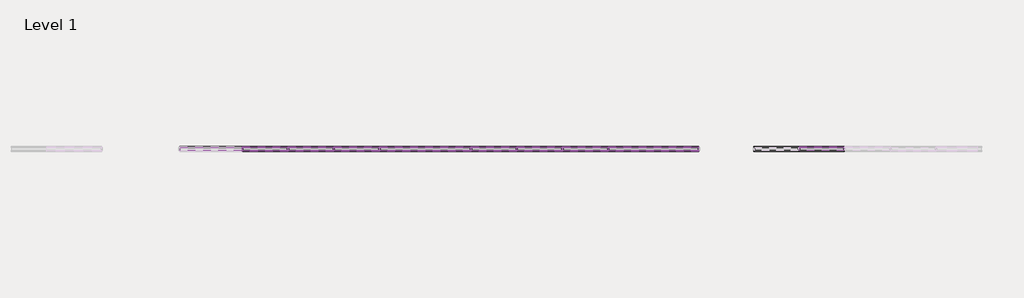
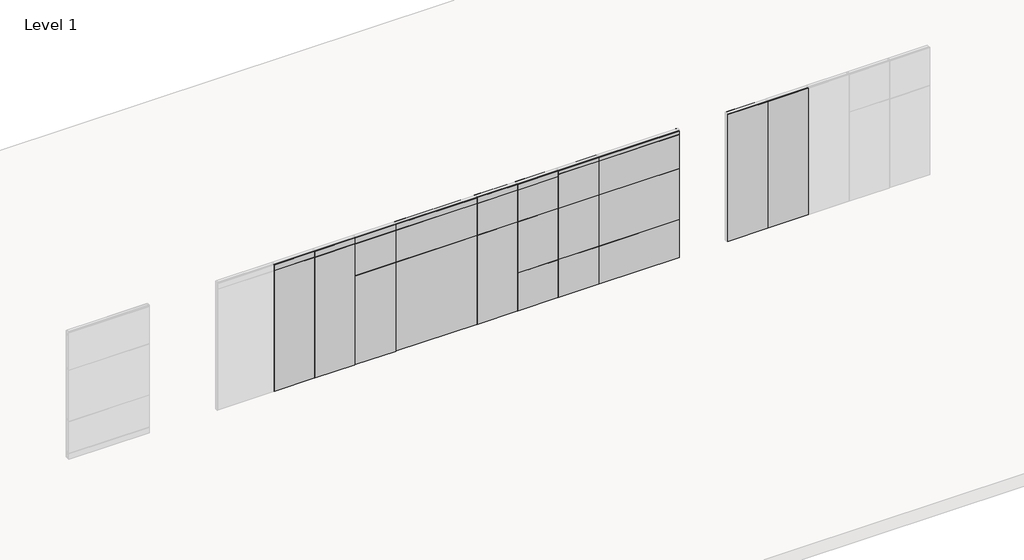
# One storey, part 8 of 22: 105 proxies.
"""IFC4 building model written with IfcOpenShell, lengths in millimetres."""

from ifc_helpers import new_model, si_unit, origin, place, context, project, spatial, transform, mapped, element, save
from components import fascia_teknion_ceiling_and_base_fpb1_33541465, fascia_teknion_ceiling_and_base_fpb1_a659cb20, fascia_teknion_ceiling_and_base_fpb1_b7746e3f, fascia_teknion_ceiling_and_base_fpb1_fca0640a, fascia_teknion_ceiling_and_base_fpb1_086ac043, fascia_teknion_ceiling_and_base_fpb1_658eb9e8, fascia_teknion_ceiling_and_base_fpb1_6ffdd3c4, fascia_teknion_ceiling_and_base_fpc_d1d4114e, fascia_teknion_ceiling_and_base_fpb1_9cc94717, frame_teknion_horizontal_rail_5872ae1a, frame_teknion_horizontal_rail_46ee653b, frame_teknion_horizontal_rail_3334b302, frame_teknion_horizontal_rail_5dd37d62, frame_teknion_horizontal_rail_fbfe6c54, full_c2ac7fb8, full_f94a2816, level_i_a4eb09b2, level_i_215115a4, level_ii_5838736d, level_ii_c8f04d20, level_ii_2f074b98, level_ii_82d1d981, level_iii_7086e34a, level_iii_17d9b208, monolithic_level_i_61e75e15, monolithic_level_i_05dcc295, monolithic_level_i_13c59c03, monolithic_level_i_604a00d2, segmented_level_i_b619f2b0, segmented_level_i_812e5143, segmented_level_ii_95ed46a7, segmented_monolithic_level_i_26a9d159, segmented_monolithic_level_i_864a3625, segmented_monolithic_level_i_a3fcbb55, segmented_monolithic_level_ii_77ebe4eb, segmented_monolithic_level_ii_a618ab00, segmented_monolithic_level_ii_062cb124, working_wall_monolithic_level_i_ddfac440, working_wall_monolithic_level_i_dfc08b04, working_wall_monolithic_level_iii_353f8d2e, segmented_level_ii_6dac37f0

model = new_model("IFC4")

# Units and contexts
model_context = context("Model", 3, world=origin())
ifc_project = project(units=[si_unit("LENGTHUNIT", "METRE", prefix="MILLI")], contexts=[model_context])

# Site, building, storey
site = spatial("IfcSite", under=ifc_project)
building = spatial("IfcBuilding", under=site)
storey = spatial("IfcBuildingStorey", under=building, Name="Level 1", Elevation=0.0)

# Proxies
placement = place(None, origin())
fascia_teknion_ceiling_and_base_fpb1_shape = fascia_teknion_ceiling_and_base_fpb1_33541465(model_context)
element("IfcBuildingElementProxy", 1, Name="Fascia-Teknion-Ceiling_and_Base : FPB1", ObjectType="Fascia-Teknion-Ceiling_and_Base : FPB1", at=placement, inside=storey, context=model_context, shape_type="MappedRepresentation", body=[
    mapped(fascia_teknion_ceiling_and_base_fpb1_shape, transform((-52573.3738225, 1843.3402105, 15.875), x_axis=(1.0, 0.0, 0.0), y_axis=(0.0, 1.0, 0.0), z_axis=(0.0, 0.0, 1.0))),
])
fascia_teknion_ceiling_and_base_fpb1_2_shape = fascia_teknion_ceiling_and_base_fpb1_a659cb20(model_context)
element("IfcBuildingElementProxy", 2, Name="Fascia-Teknion-Ceiling_and_Base : FPB1", ObjectType="Fascia-Teknion-Ceiling_and_Base : FPB1", at=placement, inside=storey, context=model_context, shape_type="MappedRepresentation", body=[
    mapped(fascia_teknion_ceiling_and_base_fpb1_2_shape, transform((-51665.9687444, 1843.3402105, 15.875), x_axis=(1.0, 0.0, 0.0), y_axis=(0.0, 1.0, 0.0), z_axis=(0.0, 0.0, 1.0))),
])
fascia_teknion_ceiling_and_base_fpb1_3_shape = fascia_teknion_ceiling_and_base_fpb1_b7746e3f(model_context)
element("IfcBuildingElementProxy", 3, Name="Fascia-Teknion-Ceiling_and_Base : FPB1", ObjectType="Fascia-Teknion-Ceiling_and_Base : FPB1", at=placement, inside=storey, context=model_context, shape_type="MappedRepresentation", body=[
    mapped(fascia_teknion_ceiling_and_base_fpb1_3_shape, transform((-55025.7636663, 1843.3402105, 15.875), x_axis=(1.0, 0.0, 0.0), y_axis=(0.0, 1.0, 0.0), z_axis=(0.0, 0.0, 1.0))),
])
fascia_teknion_ceiling_and_base_fpb1_4_shape = fascia_teknion_ceiling_and_base_fpb1_fca0640a(model_context)
element("IfcBuildingElementProxy", 4, Name="Fascia-Teknion-Ceiling_and_Base : FPB1", ObjectType="Fascia-Teknion-Ceiling_and_Base : FPB1", at=placement, inside=storey, context=model_context, shape_type="MappedRepresentation", body=[
    mapped(fascia_teknion_ceiling_and_base_fpb1_4_shape, transform((-62791.1687444, 1843.3402105, 15.875), x_axis=(1.0, 0.0, 0.0), y_axis=(0.0, 1.0, 0.0), z_axis=(0.0, 0.0, 1.0))),
])
element("IfcBuildingElementProxy", 5, Name="Fascia-Teknion-Ceiling_and_Base : FPB1", ObjectType="Fascia-Teknion-Ceiling_and_Base : FPB1", at=placement, inside=storey, context=model_context, shape_type="MappedRepresentation", body=[
    mapped(fascia_teknion_ceiling_and_base_fpb1_4_shape, transform((-61876.7687444, 1843.3402105, 15.875), x_axis=(1.0, 0.0, 0.0), y_axis=(0.0, 1.0, 0.0), z_axis=(0.0, 0.0, 1.0))),
])
element("IfcBuildingElementProxy", 6, Name="Fascia-Teknion-Ceiling_and_Base : FPB1", ObjectType="Fascia-Teknion-Ceiling_and_Base : FPB1", at=placement, inside=storey, context=model_context, shape_type="MappedRepresentation", body=[
    mapped(fascia_teknion_ceiling_and_base_fpb1_4_shape, transform((-60962.3687444, 1843.3402105, 15.875), x_axis=(1.0, 0.0, 0.0), y_axis=(0.0, 1.0, 0.0), z_axis=(0.0, 0.0, 1.0))),
])
element("IfcBuildingElementProxy", 7, Name="Fascia-Teknion-Ceiling_and_Base : FPB1", ObjectType="Fascia-Teknion-Ceiling_and_Base : FPB1", at=placement, inside=storey, context=model_context, shape_type="MappedRepresentation", body=[
    mapped(fascia_teknion_ceiling_and_base_fpb1_4_shape, transform((-58219.1687444, 1843.3402105, 15.875), x_axis=(1.0, 0.0, 0.0), y_axis=(0.0, 1.0, 0.0), z_axis=(0.0, 0.0, 1.0))),
])
element("IfcBuildingElementProxy", 8, Name="Fascia-Teknion-Ceiling_and_Base : FPB1", ObjectType="Fascia-Teknion-Ceiling_and_Base : FPB1", at=placement, inside=storey, context=model_context, shape_type="MappedRepresentation", body=[
    mapped(fascia_teknion_ceiling_and_base_fpb1_4_shape, transform((-57304.7687444, 1843.3402105, 15.875), x_axis=(1.0, 0.0, 0.0), y_axis=(0.0, 1.0, 0.0), z_axis=(0.0, 0.0, 1.0))),
])
element("IfcBuildingElementProxy", 9, Name="Fascia-Teknion-Ceiling_and_Base : FPB1", ObjectType="Fascia-Teknion-Ceiling_and_Base : FPB1", at=placement, inside=storey, context=model_context, shape_type="MappedRepresentation", body=[
    mapped(fascia_teknion_ceiling_and_base_fpb1_4_shape, transform((-56390.3687444, 1843.3402105, 15.875), x_axis=(1.0, 0.0, 0.0), y_axis=(0.0, 1.0, 0.0), z_axis=(0.0, 0.0, 1.0))),
])
fascia_teknion_ceiling_and_base_fpb1_5_shape = fascia_teknion_ceiling_and_base_fpb1_086ac043(model_context)
element("IfcBuildingElementProxy", 10, Name="Fascia-Teknion-Ceiling_and_Base : FPB1", ObjectType="Fascia-Teknion-Ceiling_and_Base : FPB1", at=placement, inside=storey, context=model_context, shape_type="MappedRepresentation", body=[
    mapped(fascia_teknion_ceiling_and_base_fpb1_5_shape, transform((-59590.7687444, 1843.3402105, 15.875), x_axis=(1.0, 0.0, 0.0), y_axis=(0.0, 1.0, 0.0), z_axis=(0.0, 0.0, 1.0))),
])
fascia_teknion_ceiling_and_base_fpb1_6_shape = fascia_teknion_ceiling_and_base_fpb1_658eb9e8(model_context)
element("IfcBuildingElementProxy", 11, Name="Fascia-Teknion-Ceiling_and_Base : FPC", ObjectType="Fascia-Teknion-Ceiling_and_Base : FPC", at=placement, inside=storey, context=model_context, shape_type="MappedRepresentation", body=[
    mapped(fascia_teknion_ceiling_and_base_fpb1_6_shape, transform((-62791.1687444, 1781.3642105, 2900.045), x_axis=(1.0, 0.0, 0.0), y_axis=(0.0, 1.0, 0.0), z_axis=(0.0, 0.0, 1.0))),
])
element("IfcBuildingElementProxy", 12, Name="Fascia-Teknion-Ceiling_and_Base : FPC", ObjectType="Fascia-Teknion-Ceiling_and_Base : FPC", at=placement, inside=storey, context=model_context, shape_type="MappedRepresentation", body=[
    mapped(fascia_teknion_ceiling_and_base_fpb1_6_shape, transform((-61876.7687444, 1781.3642105, 2900.045), x_axis=(1.0, 0.0, 0.0), y_axis=(0.0, 1.0, 0.0), z_axis=(0.0, 0.0, 1.0))),
])
element("IfcBuildingElementProxy", 13, Name="Fascia-Teknion-Ceiling_and_Base : FPC", ObjectType="Fascia-Teknion-Ceiling_and_Base : FPC", at=placement, inside=storey, context=model_context, shape_type="MappedRepresentation", body=[
    mapped(fascia_teknion_ceiling_and_base_fpb1_6_shape, transform((-60962.3687444, 1781.3642105, 2900.045), x_axis=(1.0, 0.0, 0.0), y_axis=(0.0, 1.0, 0.0), z_axis=(0.0, 0.0, 1.0))),
])
element("IfcBuildingElementProxy", 14, Name="Fascia-Teknion-Ceiling_and_Base : FPC", ObjectType="Fascia-Teknion-Ceiling_and_Base : FPC", at=placement, inside=storey, context=model_context, shape_type="MappedRepresentation", body=[
    mapped(fascia_teknion_ceiling_and_base_fpb1_6_shape, transform((-58219.1687444, 1781.3642105, 2900.045), x_axis=(1.0, 0.0, 0.0), y_axis=(0.0, 1.0, 0.0), z_axis=(0.0, 0.0, 1.0))),
])
element("IfcBuildingElementProxy", 15, Name="Fascia-Teknion-Ceiling_and_Base : FPC", ObjectType="Fascia-Teknion-Ceiling_and_Base : FPC", at=placement, inside=storey, context=model_context, shape_type="MappedRepresentation", body=[
    mapped(fascia_teknion_ceiling_and_base_fpb1_6_shape, transform((-57304.7687444, 1781.3642105, 2900.045), x_axis=(1.0, 0.0, 0.0), y_axis=(0.0, 1.0, 0.0), z_axis=(0.0, 0.0, 1.0))),
])
fascia_teknion_ceiling_and_base_fpb1_7_shape = fascia_teknion_ceiling_and_base_fpb1_6ffdd3c4(model_context)
element("IfcBuildingElementProxy", 16, Name="Fascia-Teknion-Ceiling_and_Base : FPC", ObjectType="Fascia-Teknion-Ceiling_and_Base : FPC", at=placement, inside=storey, context=model_context, shape_type="MappedRepresentation", body=[
    mapped(fascia_teknion_ceiling_and_base_fpb1_7_shape, transform((-59590.7687444, 1781.3642105, 2900.045), x_axis=(1.0, 0.0, 0.0), y_axis=(0.0, 1.0, 0.0), z_axis=(0.0, 0.0, 1.0))),
])
element("IfcBuildingElementProxy", 17, Name="Fascia-Teknion-Ceiling_and_Base : FPC", ObjectType="Fascia-Teknion-Ceiling_and_Base : FPC", at=placement, inside=storey, context=model_context, shape_type="MappedRepresentation", body=[
    mapped(fascia_teknion_ceiling_and_base_fpb1_3_shape, transform((-55025.7636663, 1843.3402105, 2950.845), x_axis=(1.0, 0.0, 0.0), y_axis=(0.0, 1.0, 0.0), z_axis=(0.0, 0.0, 1.0))),
])
fascia_teknion_ceiling_and_base_fpc_shape = fascia_teknion_ceiling_and_base_fpc_d1d4114e(model_context)
element("IfcBuildingElementProxy", 18, Name="Fascia-Teknion-Ceiling_and_Base : FPC", ObjectType="Fascia-Teknion-Ceiling_and_Base : FPC", at=placement, inside=storey, context=model_context, shape_type="MappedRepresentation", body=[
    mapped(fascia_teknion_ceiling_and_base_fpc_shape, transform((-55025.7636663, 1781.3642105, 2950.845), x_axis=(1.0, 0.0, 0.0), y_axis=(0.0, 1.0, 0.0), z_axis=(0.0, 0.0, 1.0))),
])
element("IfcBuildingElementProxy", 19, Name="Fascia-Teknion-Ceiling_and_Base : FPC", ObjectType="Fascia-Teknion-Ceiling_and_Base : FPC", at=placement, inside=storey, context=model_context, shape_type="MappedRepresentation", body=[
    mapped(fascia_teknion_ceiling_and_base_fpb1_4_shape, transform((-62791.1687444, 1843.3402105, 2950.845), x_axis=(1.0, 0.0, 0.0), y_axis=(0.0, 1.0, 0.0), z_axis=(0.0, 0.0, 1.0))),
])
element("IfcBuildingElementProxy", 20, Name="Fascia-Teknion-Ceiling_and_Base : FPC", ObjectType="Fascia-Teknion-Ceiling_and_Base : FPC", at=placement, inside=storey, context=model_context, shape_type="MappedRepresentation", body=[
    mapped(fascia_teknion_ceiling_and_base_fpb1_4_shape, transform((-61876.7687444, 1843.3402105, 2950.845), x_axis=(1.0, 0.0, 0.0), y_axis=(0.0, 1.0, 0.0), z_axis=(0.0, 0.0, 1.0))),
])
element("IfcBuildingElementProxy", 21, Name="Fascia-Teknion-Ceiling_and_Base : FPC", ObjectType="Fascia-Teknion-Ceiling_and_Base : FPC", at=placement, inside=storey, context=model_context, shape_type="MappedRepresentation", body=[
    mapped(fascia_teknion_ceiling_and_base_fpb1_4_shape, transform((-60962.3687444, 1843.3402105, 2950.845), x_axis=(1.0, 0.0, 0.0), y_axis=(0.0, 1.0, 0.0), z_axis=(0.0, 0.0, 1.0))),
])
element("IfcBuildingElementProxy", 22, Name="Fascia-Teknion-Ceiling_and_Base : FPC", ObjectType="Fascia-Teknion-Ceiling_and_Base : FPC", at=placement, inside=storey, context=model_context, shape_type="MappedRepresentation", body=[
    mapped(fascia_teknion_ceiling_and_base_fpb1_4_shape, transform((-58219.1687444, 1843.3402105, 2950.845), x_axis=(1.0, 0.0, 0.0), y_axis=(0.0, 1.0, 0.0), z_axis=(0.0, 0.0, 1.0))),
])
element("IfcBuildingElementProxy", 23, Name="Fascia-Teknion-Ceiling_and_Base : FPC", ObjectType="Fascia-Teknion-Ceiling_and_Base : FPC", at=placement, inside=storey, context=model_context, shape_type="MappedRepresentation", body=[
    mapped(fascia_teknion_ceiling_and_base_fpb1_4_shape, transform((-57304.7687444, 1843.3402105, 2950.845), x_axis=(1.0, 0.0, 0.0), y_axis=(0.0, 1.0, 0.0), z_axis=(0.0, 0.0, 1.0))),
])
element("IfcBuildingElementProxy", 24, Name="Fascia-Teknion-Ceiling_and_Base : FPC", ObjectType="Fascia-Teknion-Ceiling_and_Base : FPC", at=placement, inside=storey, context=model_context, shape_type="MappedRepresentation", body=[
    mapped(fascia_teknion_ceiling_and_base_fpb1_4_shape, transform((-56390.3687444, 1843.3402105, 2950.845), x_axis=(1.0, 0.0, 0.0), y_axis=(0.0, 1.0, 0.0), z_axis=(0.0, 0.0, 1.0))),
])
element("IfcBuildingElementProxy", 25, Name="Fascia-Teknion-Ceiling_and_Base : FPC", ObjectType="Fascia-Teknion-Ceiling_and_Base : FPC", at=placement, inside=storey, context=model_context, shape_type="MappedRepresentation", body=[
    mapped(fascia_teknion_ceiling_and_base_fpb1_5_shape, transform((-59590.7687444, 1843.3402105, 2950.845), x_axis=(1.0, 0.0, 0.0), y_axis=(0.0, 1.0, 0.0), z_axis=(0.0, 0.0, 1.0))),
])
fascia_teknion_ceiling_and_base_fpb1_8_shape = fascia_teknion_ceiling_and_base_fpb1_9cc94717(model_context)
element("IfcBuildingElementProxy", 26, Name="Fascia-Teknion-Ceiling_and_Base : FPC", ObjectType="Fascia-Teknion-Ceiling_and_Base : FPC", at=placement, inside=storey, context=model_context, shape_type="MappedRepresentation", body=[
    mapped(fascia_teknion_ceiling_and_base_fpb1_8_shape, transform((-56390.3687444, 1781.3642105, 2950.845), x_axis=(1.0, 0.0, 0.0), y_axis=(0.0, 1.0, 0.0), z_axis=(0.0, 0.0, 1.0))),
])
frame_teknion_horizontal_rail_shape = frame_teknion_horizontal_rail_5872ae1a(model_context)
element("IfcBuildingElementProxy", 27, Name="Frame-Teknion-Horizontal_Rail : FPKK", ObjectType="Frame-Teknion-Horizontal_Rail : FPKK", at=placement, inside=storey, context=model_context, shape_type="MappedRepresentation", body=[
    mapped(frame_teknion_horizontal_rail_shape, transform((-52573.3738225, 1812.3522105, 151.257), x_axis=(1.0, 0.0, 0.0), y_axis=(0.0, 1.0, 0.0), z_axis=(0.0, 0.0, 1.0))),
])
frame_teknion_horizontal_rail_2_shape = frame_teknion_horizontal_rail_46ee653b(model_context)
element("IfcBuildingElementProxy", 28, Name="Frame-Teknion-Horizontal_Rail : FPKK", ObjectType="Frame-Teknion-Horizontal_Rail : FPKK", at=placement, inside=storey, context=model_context, shape_type="MappedRepresentation", body=[
    mapped(frame_teknion_horizontal_rail_2_shape, transform((-62791.1687444, 1812.3522105, 2136.775), x_axis=(1.0, 0.0, 0.0), y_axis=(0.0, 1.0, 0.0), z_axis=(0.0, 0.0, 1.0))),
])
element("IfcBuildingElementProxy", 29, Name="Frame-Teknion-Horizontal_Rail : FPKK", ObjectType="Frame-Teknion-Horizontal_Rail : FPKK", at=placement, inside=storey, context=model_context, shape_type="MappedRepresentation", body=[
    mapped(frame_teknion_horizontal_rail_2_shape, transform((-62791.1687444, 1812.3522105, 100.457), x_axis=(1.0, 0.0, 0.0), y_axis=(0.0, 1.0, 0.0), z_axis=(0.0, 0.0, 1.0))),
])
element("IfcBuildingElementProxy", 30, Name="Frame-Teknion-Horizontal_Rail : FPKK", ObjectType="Frame-Teknion-Horizontal_Rail : FPKK", at=placement, inside=storey, context=model_context, shape_type="MappedRepresentation", body=[
    mapped(frame_teknion_horizontal_rail_2_shape, transform((-62791.1687444, 1812.3522105, 2898.3305), x_axis=(1.0, 0.0, 0.0), y_axis=(0.0, 1.0, 0.0), z_axis=(0.0, 0.0, 1.0))),
])
element("IfcBuildingElementProxy", 31, Name="Frame-Teknion-Horizontal_Rail : FPKK", ObjectType="Frame-Teknion-Horizontal_Rail : FPKK", at=placement, inside=storey, context=model_context, shape_type="MappedRepresentation", body=[
    mapped(frame_teknion_horizontal_rail_2_shape, transform((-61876.7687444, 1812.3522105, 917.575), x_axis=(1.0, 0.0, 0.0), y_axis=(0.0, 1.0, 0.0), z_axis=(0.0, 0.0, 1.0))),
])
element("IfcBuildingElementProxy", 32, Name="Frame-Teknion-Horizontal_Rail : FPKK", ObjectType="Frame-Teknion-Horizontal_Rail : FPKK", at=placement, inside=storey, context=model_context, shape_type="MappedRepresentation", body=[
    mapped(frame_teknion_horizontal_rail_2_shape, transform((-61876.7687444, 1812.3522105, 2136.775), x_axis=(1.0, 0.0, 0.0), y_axis=(0.0, 1.0, 0.0), z_axis=(0.0, 0.0, 1.0))),
])
element("IfcBuildingElementProxy", 33, Name="Frame-Teknion-Horizontal_Rail : FPKK", ObjectType="Frame-Teknion-Horizontal_Rail : FPKK", at=placement, inside=storey, context=model_context, shape_type="MappedRepresentation", body=[
    mapped(frame_teknion_horizontal_rail_2_shape, transform((-61876.7687444, 1812.3522105, 100.457), x_axis=(1.0, 0.0, 0.0), y_axis=(0.0, 1.0, 0.0), z_axis=(0.0, 0.0, 1.0))),
])
element("IfcBuildingElementProxy", 34, Name="Frame-Teknion-Horizontal_Rail : FPKK", ObjectType="Frame-Teknion-Horizontal_Rail : FPKK", at=placement, inside=storey, context=model_context, shape_type="MappedRepresentation", body=[
    mapped(frame_teknion_horizontal_rail_2_shape, transform((-61876.7687444, 1812.3522105, 2898.3305), x_axis=(1.0, 0.0, 0.0), y_axis=(0.0, 1.0, 0.0), z_axis=(0.0, 0.0, 1.0))),
])
element("IfcBuildingElementProxy", 35, Name="Frame-Teknion-Horizontal_Rail : FPKK", ObjectType="Frame-Teknion-Horizontal_Rail : FPKK", at=placement, inside=storey, context=model_context, shape_type="MappedRepresentation", body=[
    mapped(frame_teknion_horizontal_rail_2_shape, transform((-60962.3687444, 1812.3522105, 2136.775), x_axis=(1.0, 0.0, 0.0), y_axis=(0.0, 1.0, 0.0), z_axis=(0.0, 0.0, 1.0))),
])
element("IfcBuildingElementProxy", 36, Name="Frame-Teknion-Horizontal_Rail : FPKK", ObjectType="Frame-Teknion-Horizontal_Rail : FPKK", at=placement, inside=storey, context=model_context, shape_type="MappedRepresentation", body=[
    mapped(frame_teknion_horizontal_rail_2_shape, transform((-60962.3687444, 1812.3522105, 100.457), x_axis=(1.0, 0.0, 0.0), y_axis=(0.0, 1.0, 0.0), z_axis=(0.0, 0.0, 1.0))),
])
element("IfcBuildingElementProxy", 37, Name="Frame-Teknion-Horizontal_Rail : FPKK", ObjectType="Frame-Teknion-Horizontal_Rail : FPKK", at=placement, inside=storey, context=model_context, shape_type="MappedRepresentation", body=[
    mapped(frame_teknion_horizontal_rail_2_shape, transform((-60962.3687444, 1812.3522105, 2898.3305), x_axis=(1.0, 0.0, 0.0), y_axis=(0.0, 1.0, 0.0), z_axis=(0.0, 0.0, 1.0))),
])
element("IfcBuildingElementProxy", 38, Name="Frame-Teknion-Horizontal_Rail : FPKK", ObjectType="Frame-Teknion-Horizontal_Rail : FPKK", at=placement, inside=storey, context=model_context, shape_type="MappedRepresentation", body=[
    mapped(frame_teknion_horizontal_rail_2_shape, transform((-58219.1687444, 1812.3522105, 917.575), x_axis=(1.0, 0.0, 0.0), y_axis=(0.0, 1.0, 0.0), z_axis=(0.0, 0.0, 1.0))),
])
element("IfcBuildingElementProxy", 39, Name="Frame-Teknion-Horizontal_Rail : FPKK", ObjectType="Frame-Teknion-Horizontal_Rail : FPKK", at=placement, inside=storey, context=model_context, shape_type="MappedRepresentation", body=[
    mapped(frame_teknion_horizontal_rail_2_shape, transform((-58219.1687444, 1812.3522105, 2136.775), x_axis=(1.0, 0.0, 0.0), y_axis=(0.0, 1.0, 0.0), z_axis=(0.0, 0.0, 1.0))),
])
element("IfcBuildingElementProxy", 40, Name="Frame-Teknion-Horizontal_Rail : FPKK", ObjectType="Frame-Teknion-Horizontal_Rail : FPKK", at=placement, inside=storey, context=model_context, shape_type="MappedRepresentation", body=[
    mapped(frame_teknion_horizontal_rail_2_shape, transform((-58219.1687444, 1812.3522105, 100.457), x_axis=(1.0, 0.0, 0.0), y_axis=(0.0, 1.0, 0.0), z_axis=(0.0, 0.0, 1.0))),
])
element("IfcBuildingElementProxy", 41, Name="Frame-Teknion-Horizontal_Rail : FPKK", ObjectType="Frame-Teknion-Horizontal_Rail : FPKK", at=placement, inside=storey, context=model_context, shape_type="MappedRepresentation", body=[
    mapped(frame_teknion_horizontal_rail_2_shape, transform((-58219.1687444, 1812.3522105, 2898.3305), x_axis=(1.0, 0.0, 0.0), y_axis=(0.0, 1.0, 0.0), z_axis=(0.0, 0.0, 1.0))),
])
element("IfcBuildingElementProxy", 42, Name="Frame-Teknion-Horizontal_Rail : FPKK", ObjectType="Frame-Teknion-Horizontal_Rail : FPKK", at=placement, inside=storey, context=model_context, shape_type="MappedRepresentation", body=[
    mapped(frame_teknion_horizontal_rail_2_shape, transform((-57304.7687444, 1812.3522105, 917.575), x_axis=(1.0, 0.0, 0.0), y_axis=(0.0, 1.0, 0.0), z_axis=(0.0, 0.0, 1.0))),
])
element("IfcBuildingElementProxy", 43, Name="Frame-Teknion-Horizontal_Rail : FPKK", ObjectType="Frame-Teknion-Horizontal_Rail : FPKK", at=placement, inside=storey, context=model_context, shape_type="MappedRepresentation", body=[
    mapped(frame_teknion_horizontal_rail_2_shape, transform((-57304.7687444, 1812.3522105, 2136.775), x_axis=(1.0, 0.0, 0.0), y_axis=(0.0, 1.0, 0.0), z_axis=(0.0, 0.0, 1.0))),
])
element("IfcBuildingElementProxy", 44, Name="Frame-Teknion-Horizontal_Rail : FPKK", ObjectType="Frame-Teknion-Horizontal_Rail : FPKK", at=placement, inside=storey, context=model_context, shape_type="MappedRepresentation", body=[
    mapped(frame_teknion_horizontal_rail_2_shape, transform((-57304.7687444, 1812.3522105, 100.457), x_axis=(1.0, 0.0, 0.0), y_axis=(0.0, 1.0, 0.0), z_axis=(0.0, 0.0, 1.0))),
])
element("IfcBuildingElementProxy", 45, Name="Frame-Teknion-Horizontal_Rail : FPKK", ObjectType="Frame-Teknion-Horizontal_Rail : FPKK", at=placement, inside=storey, context=model_context, shape_type="MappedRepresentation", body=[
    mapped(frame_teknion_horizontal_rail_2_shape, transform((-57304.7687444, 1812.3522105, 2898.3305), x_axis=(1.0, 0.0, 0.0), y_axis=(0.0, 1.0, 0.0), z_axis=(0.0, 0.0, 1.0))),
])
element("IfcBuildingElementProxy", 46, Name="Frame-Teknion-Horizontal_Rail : FPKK", ObjectType="Frame-Teknion-Horizontal_Rail : FPKK", at=placement, inside=storey, context=model_context, shape_type="MappedRepresentation", body=[
    mapped(frame_teknion_horizontal_rail_2_shape, transform((-56390.3687444, 1812.3522105, 917.575), x_axis=(1.0, 0.0, 0.0), y_axis=(0.0, 1.0, 0.0), z_axis=(0.0, 0.0, 1.0))),
])
element("IfcBuildingElementProxy", 47, Name="Frame-Teknion-Horizontal_Rail : FPKK", ObjectType="Frame-Teknion-Horizontal_Rail : FPKK", at=placement, inside=storey, context=model_context, shape_type="MappedRepresentation", body=[
    mapped(frame_teknion_horizontal_rail_2_shape, transform((-56390.3687444, 1812.3522105, 2136.775), x_axis=(1.0, 0.0, 0.0), y_axis=(0.0, 1.0, 0.0), z_axis=(0.0, 0.0, 1.0))),
])
element("IfcBuildingElementProxy", 48, Name="Frame-Teknion-Horizontal_Rail : FPKK", ObjectType="Frame-Teknion-Horizontal_Rail : FPKK", at=placement, inside=storey, context=model_context, shape_type="MappedRepresentation", body=[
    mapped(frame_teknion_horizontal_rail_2_shape, transform((-56390.3687444, 1812.3522105, 100.457), x_axis=(1.0, 0.0, 0.0), y_axis=(0.0, 1.0, 0.0), z_axis=(0.0, 0.0, 1.0))),
])
element("IfcBuildingElementProxy", 49, Name="Frame-Teknion-Horizontal_Rail : FPKK", ObjectType="Frame-Teknion-Horizontal_Rail : FPKK", at=placement, inside=storey, context=model_context, shape_type="MappedRepresentation", body=[
    mapped(frame_teknion_horizontal_rail_2_shape, transform((-51665.9687444, 1812.3522105, 2136.775), x_axis=(1.0, 0.0, 0.0), y_axis=(0.0, 1.0, 0.0), z_axis=(0.0, 0.0, 1.0))),
])
element("IfcBuildingElementProxy", 50, Name="Frame-Teknion-Horizontal_Rail : FPKK", ObjectType="Frame-Teknion-Horizontal_Rail : FPKK", at=placement, inside=storey, context=model_context, shape_type="MappedRepresentation", body=[
    mapped(frame_teknion_horizontal_rail_2_shape, transform((-51665.9687444, 1812.3522105, 151.257), x_axis=(1.0, 0.0, 0.0), y_axis=(0.0, 1.0, 0.0), z_axis=(0.0, 0.0, 1.0))),
])
element("IfcBuildingElementProxy", 51, Name="Frame-Teknion-Horizontal_Rail : FPKK", ObjectType="Frame-Teknion-Horizontal_Rail : FPKK", at=placement, inside=storey, context=model_context, shape_type="MappedRepresentation", body=[
    mapped(frame_teknion_horizontal_rail_2_shape, transform((-62791.1687444, 1812.3522105, 2949.1305), x_axis=(1.0, 0.0, 0.0), y_axis=(0.0, 1.0, 0.0), z_axis=(0.0, 0.0, 1.0))),
])
element("IfcBuildingElementProxy", 52, Name="Frame-Teknion-Horizontal_Rail : FPKK", ObjectType="Frame-Teknion-Horizontal_Rail : FPKK", at=placement, inside=storey, context=model_context, shape_type="MappedRepresentation", body=[
    mapped(frame_teknion_horizontal_rail_2_shape, transform((-61876.7687444, 1812.3522105, 2949.1305), x_axis=(1.0, 0.0, 0.0), y_axis=(0.0, 1.0, 0.0), z_axis=(0.0, 0.0, 1.0))),
])
element("IfcBuildingElementProxy", 53, Name="Frame-Teknion-Horizontal_Rail : FPKK", ObjectType="Frame-Teknion-Horizontal_Rail : FPKK", at=placement, inside=storey, context=model_context, shape_type="MappedRepresentation", body=[
    mapped(frame_teknion_horizontal_rail_2_shape, transform((-60962.3687444, 1812.3522105, 2949.1305), x_axis=(1.0, 0.0, 0.0), y_axis=(0.0, 1.0, 0.0), z_axis=(0.0, 0.0, 1.0))),
])
element("IfcBuildingElementProxy", 54, Name="Frame-Teknion-Horizontal_Rail : FPKK", ObjectType="Frame-Teknion-Horizontal_Rail : FPKK", at=placement, inside=storey, context=model_context, shape_type="MappedRepresentation", body=[
    mapped(frame_teknion_horizontal_rail_2_shape, transform((-58219.1687444, 1812.3522105, 2949.1305), x_axis=(1.0, 0.0, 0.0), y_axis=(0.0, 1.0, 0.0), z_axis=(0.0, 0.0, 1.0))),
])
element("IfcBuildingElementProxy", 55, Name="Frame-Teknion-Horizontal_Rail : FPKK", ObjectType="Frame-Teknion-Horizontal_Rail : FPKK", at=placement, inside=storey, context=model_context, shape_type="MappedRepresentation", body=[
    mapped(frame_teknion_horizontal_rail_2_shape, transform((-57304.7687444, 1812.3522105, 2949.1305), x_axis=(1.0, 0.0, 0.0), y_axis=(0.0, 1.0, 0.0), z_axis=(0.0, 0.0, 1.0))),
])
element("IfcBuildingElementProxy", 56, Name="Frame-Teknion-Horizontal_Rail : FPKK", ObjectType="Frame-Teknion-Horizontal_Rail : FPKK", at=placement, inside=storey, context=model_context, shape_type="MappedRepresentation", body=[
    mapped(frame_teknion_horizontal_rail_2_shape, transform((-56390.3687444, 1812.3522105, 2949.1305), x_axis=(1.0, 0.0, 0.0), y_axis=(0.0, 1.0, 0.0), z_axis=(0.0, 0.0, 1.0))),
])
frame_teknion_horizontal_rail_3_shape = frame_teknion_horizontal_rail_3334b302(model_context)
element("IfcBuildingElementProxy", 57, Name="Frame-Teknion-Horizontal_Rail : FPKK", ObjectType="Frame-Teknion-Horizontal_Rail : FPKK", at=placement, inside=storey, context=model_context, shape_type="MappedRepresentation", body=[
    mapped(frame_teknion_horizontal_rail_3_shape, transform((-63876.3738225, 1812.3522105, 2949.1305), x_axis=(1.0, 0.0, 0.0), y_axis=(0.0, 1.0, 0.0), z_axis=(0.0, 0.0, 1.0))),
])
frame_teknion_horizontal_rail_4_shape = frame_teknion_horizontal_rail_5dd37d62(model_context)
element("IfcBuildingElementProxy", 58, Name="Frame-Teknion-Horizontal_Rail : FPKK", ObjectType="Frame-Teknion-Horizontal_Rail : FPKK", at=placement, inside=storey, context=model_context, shape_type="MappedRepresentation", body=[
    mapped(frame_teknion_horizontal_rail_4_shape, transform((-59590.7687444, 1812.3522105, 2136.775), x_axis=(1.0, 0.0, 0.0), y_axis=(0.0, 1.0, 0.0), z_axis=(0.0, 0.0, 1.0))),
])
element("IfcBuildingElementProxy", 59, Name="Frame-Teknion-Horizontal_Rail : FPKK", ObjectType="Frame-Teknion-Horizontal_Rail : FPKK", at=placement, inside=storey, context=model_context, shape_type="MappedRepresentation", body=[
    mapped(frame_teknion_horizontal_rail_4_shape, transform((-59590.7687444, 1812.3522105, 100.457), x_axis=(1.0, 0.0, 0.0), y_axis=(0.0, 1.0, 0.0), z_axis=(0.0, 0.0, 1.0))),
])
element("IfcBuildingElementProxy", 60, Name="Frame-Teknion-Horizontal_Rail : FPKK", ObjectType="Frame-Teknion-Horizontal_Rail : FPKK", at=placement, inside=storey, context=model_context, shape_type="MappedRepresentation", body=[
    mapped(frame_teknion_horizontal_rail_4_shape, transform((-59590.7687444, 1812.3522105, 2898.3305), x_axis=(1.0, 0.0, 0.0), y_axis=(0.0, 1.0, 0.0), z_axis=(0.0, 0.0, 1.0))),
])
element("IfcBuildingElementProxy", 61, Name="Frame-Teknion-Horizontal_Rail : FPKK", ObjectType="Frame-Teknion-Horizontal_Rail : FPKK", at=placement, inside=storey, context=model_context, shape_type="MappedRepresentation", body=[
    mapped(frame_teknion_horizontal_rail_4_shape, transform((-59590.7687444, 1812.3522105, 2949.1305), x_axis=(1.0, 0.0, 0.0), y_axis=(0.0, 1.0, 0.0), z_axis=(0.0, 0.0, 1.0))),
])
frame_teknion_horizontal_rail_5_shape = frame_teknion_horizontal_rail_fbfe6c54(model_context)
element("IfcBuildingElementProxy", 62, Name="Frame-Teknion-Horizontal_Rail : FPKK", ObjectType="Frame-Teknion-Horizontal_Rail : FPKK", at=placement, inside=storey, context=model_context, shape_type="MappedRepresentation", body=[
    mapped(frame_teknion_horizontal_rail_5_shape, transform((-55025.7636663, 1812.3522105, 917.575), x_axis=(1.0, 0.0, 0.0), y_axis=(0.0, 1.0, 0.0), z_axis=(0.0, 0.0, 1.0))),
])
element("IfcBuildingElementProxy", 63, Name="Frame-Teknion-Horizontal_Rail : FPKK", ObjectType="Frame-Teknion-Horizontal_Rail : FPKK", at=placement, inside=storey, context=model_context, shape_type="MappedRepresentation", body=[
    mapped(frame_teknion_horizontal_rail_5_shape, transform((-55025.7636663, 1812.3522105, 2136.775), x_axis=(1.0, 0.0, 0.0), y_axis=(0.0, 1.0, 0.0), z_axis=(0.0, 0.0, 1.0))),
])
element("IfcBuildingElementProxy", 64, Name="Frame-Teknion-Horizontal_Rail : FPKK", ObjectType="Frame-Teknion-Horizontal_Rail : FPKK", at=placement, inside=storey, context=model_context, shape_type="MappedRepresentation", body=[
    mapped(frame_teknion_horizontal_rail_5_shape, transform((-55025.7636663, 1812.3522105, 100.457), x_axis=(1.0, 0.0, 0.0), y_axis=(0.0, 1.0, 0.0), z_axis=(0.0, 0.0, 1.0))),
])
element("IfcBuildingElementProxy", 65, Name="Frame-Teknion-Horizontal_Rail : FPKK", ObjectType="Frame-Teknion-Horizontal_Rail : FPKK", at=placement, inside=storey, context=model_context, shape_type="MappedRepresentation", body=[
    mapped(frame_teknion_horizontal_rail_5_shape, transform((-55025.7636663, 1812.3522105, 2949.1305), x_axis=(1.0, 0.0, 0.0), y_axis=(0.0, 1.0, 0.0), z_axis=(0.0, 0.0, 1.0))),
])
full_shape = full_c2ac7fb8(model_context)
element("IfcBuildingElementProxy", 66, Name="Panel-Fascia-Teknion-Altos-Standard : Full", ObjectType="Panel-Fascia-Teknion-Altos-Standard : Full", at=placement, inside=storey, context=model_context, shape_type="MappedRepresentation", body=[
    mapped(full_shape, transform((-63876.3738225, 1852.8652105, 100.457), x_axis=(1.0, 0.0, 0.0), y_axis=(0.0, 1.0, 0.0), z_axis=(0.0, 0.0, 1.0))),
])
full_2_shape = full_f94a2816(model_context)
element("IfcBuildingElementProxy", 67, Name="Panel-Fascia-Teknion-Altos-Standard : Full", ObjectType="Panel-Fascia-Teknion-Altos-Standard : Full", at=placement, inside=storey, context=model_context, shape_type="MappedRepresentation", body=[
    mapped(full_2_shape, transform((-60962.3687444, 1852.8652105, 100.457), x_axis=(1.0, 0.0, 0.0), y_axis=(0.0, 1.0, 0.0), z_axis=(0.0, 0.0, 1.0))),
])
element("IfcBuildingElementProxy", 68, Name="Panel-Fascia-Teknion-Altos-Standard : Full", ObjectType="Panel-Fascia-Teknion-Altos-Standard : Full", at=placement, inside=storey, context=model_context, shape_type="MappedRepresentation", body=[
    mapped(full_2_shape, transform((-57304.7687444, 1852.8652105, 100.457), x_axis=(1.0, 0.0, 0.0), y_axis=(0.0, 1.0, 0.0), z_axis=(0.0, 0.0, 1.0))),
])
level_i_shape = level_i_a4eb09b2(model_context)
element("IfcBuildingElementProxy", 69, Name="Panel-Fascia-Teknion-Altos-Standard : Level I", ObjectType="Panel-Fascia-Teknion-Altos-Standard : Level I", at=placement, inside=storey, context=model_context, shape_type="MappedRepresentation", body=[
    mapped(level_i_shape, transform((-55025.7636663, 1852.8652105, 100.457), x_axis=(1.0, 0.0, 0.0), y_axis=(0.0, 1.0, 0.0), z_axis=(0.0, 0.0, 1.0))),
])
level_i_2_shape = level_i_215115a4(model_context)
element("IfcBuildingElementProxy", 70, Name="Panel-Fascia-Teknion-Altos-Standard : Level I", ObjectType="Panel-Fascia-Teknion-Altos-Standard : Level I", at=placement, inside=storey, context=model_context, shape_type="MappedRepresentation", body=[
    mapped(level_i_2_shape, transform((-61876.7687444, 1852.8652105, 100.457), x_axis=(1.0, 0.0, 0.0), y_axis=(0.0, 1.0, 0.0), z_axis=(0.0, 0.0, 1.0))),
])
element("IfcBuildingElementProxy", 71, Name="Panel-Fascia-Teknion-Altos-Standard : Level I", ObjectType="Panel-Fascia-Teknion-Altos-Standard : Level I", at=placement, inside=storey, context=model_context, shape_type="MappedRepresentation", body=[
    mapped(level_i_2_shape, transform((-58219.1687444, 1852.8652105, 100.457), x_axis=(1.0, 0.0, 0.0), y_axis=(0.0, 1.0, 0.0), z_axis=(0.0, 0.0, 1.0))),
])
level_ii_shape = level_ii_5838736d(model_context)
element("IfcBuildingElementProxy", 72, Name="Panel-Fascia-Teknion-Altos-Standard : Level II", ObjectType="Panel-Fascia-Teknion-Altos-Standard : Level II", at=placement, inside=storey, context=model_context, shape_type="MappedRepresentation", body=[
    mapped(level_ii_shape, transform((-61876.7687444, 1852.8652105, 917.575), x_axis=(1.0, 0.0, 0.0), y_axis=(0.0, 1.0, 0.0), z_axis=(0.0, 0.0, 1.0))),
])
element("IfcBuildingElementProxy", 73, Name="Panel-Fascia-Teknion-Altos-Standard : Level II", ObjectType="Panel-Fascia-Teknion-Altos-Standard : Level II", at=placement, inside=storey, context=model_context, shape_type="MappedRepresentation", body=[
    mapped(level_ii_shape, transform((-58219.1687444, 1852.8652105, 917.575), x_axis=(1.0, 0.0, 0.0), y_axis=(0.0, 1.0, 0.0), z_axis=(0.0, 0.0, 1.0))),
])
level_ii_2_shape = level_ii_c8f04d20(model_context)
element("IfcBuildingElementProxy", 74, Name="Panel-Fascia-Teknion-Altos-Standard : Level II", ObjectType="Panel-Fascia-Teknion-Altos-Standard : Level II", at=placement, inside=storey, context=model_context, shape_type="MappedRepresentation", body=[
    mapped(level_ii_2_shape, transform((-56390.3687444, 1771.8392105, 917.575), x_axis=(1.0, 0.0, 0.0), y_axis=(0.0, 1.0, 0.0), z_axis=(0.0, 0.0, 1.0))),
])
element("IfcBuildingElementProxy", 75, Name="Panel-Fascia-Teknion-Altos-Standard : Level II", ObjectType="Panel-Fascia-Teknion-Altos-Standard : Level II", at=placement, inside=storey, context=model_context, shape_type="MappedRepresentation", body=[
    mapped(level_ii_2_shape, transform((-57304.7687444, 1771.8392105, 917.575), x_axis=(1.0, 0.0, 0.0), y_axis=(0.0, 1.0, 0.0), z_axis=(0.0, 0.0, 1.0))),
])
level_ii_3_shape = level_ii_2f074b98(model_context)
element("IfcBuildingElementProxy", 76, Name="Panel-Fascia-Teknion-Altos-Standard : Level II", ObjectType="Panel-Fascia-Teknion-Altos-Standard : Level II", at=placement, inside=storey, context=model_context, shape_type="MappedRepresentation", body=[
    mapped(level_ii_3_shape, transform((-55025.7636663, 1771.8392105, 917.575), x_axis=(1.0, 0.0, 0.0), y_axis=(0.0, 1.0, 0.0), z_axis=(0.0, 0.0, 1.0))),
])
level_ii_4_shape = level_ii_82d1d981(model_context)
element("IfcBuildingElementProxy", 77, Name="Panel-Fascia-Teknion-Altos-Standard : Level II", ObjectType="Panel-Fascia-Teknion-Altos-Standard : Level II", at=placement, inside=storey, context=model_context, shape_type="MappedRepresentation", body=[
    mapped(level_ii_4_shape, transform((-55025.7636663, 1852.8652105, 917.575), x_axis=(1.0, 0.0, 0.0), y_axis=(0.0, 1.0, 0.0), z_axis=(0.0, 0.0, 1.0))),
])
level_iii_shape = level_iii_7086e34a(model_context)
element("IfcBuildingElementProxy", 78, Name="Panel-Fascia-Teknion-Altos-Standard : Level III", ObjectType="Panel-Fascia-Teknion-Altos-Standard : Level III", at=placement, inside=storey, context=model_context, shape_type="MappedRepresentation", body=[
    mapped(level_iii_shape, transform((-55025.7636663, 1852.8652105, 2136.775), x_axis=(1.0, 0.0, 0.0), y_axis=(0.0, 1.0, 0.0), z_axis=(0.0, 0.0, 1.0))),
])
level_iii_2_shape = level_iii_17d9b208(model_context)
element("IfcBuildingElementProxy", 79, Name="Panel-Fascia-Teknion-Altos-Standard : Level III", ObjectType="Panel-Fascia-Teknion-Altos-Standard : Level III", at=placement, inside=storey, context=model_context, shape_type="MappedRepresentation", body=[
    mapped(level_iii_2_shape, transform((-61876.7687444, 1852.8652105, 2136.775), x_axis=(1.0, 0.0, 0.0), y_axis=(0.0, 1.0, 0.0), z_axis=(0.0, 0.0, 1.0))),
])
element("IfcBuildingElementProxy", 80, Name="Panel-Fascia-Teknion-Altos-Standard : Level III", ObjectType="Panel-Fascia-Teknion-Altos-Standard : Level III", at=placement, inside=storey, context=model_context, shape_type="MappedRepresentation", body=[
    mapped(level_iii_2_shape, transform((-58219.1687444, 1852.8652105, 2136.775), x_axis=(1.0, 0.0, 0.0), y_axis=(0.0, 1.0, 0.0), z_axis=(0.0, 0.0, 1.0))),
])
monolithic_level_i_shape = monolithic_level_i_61e75e15(model_context)
element("IfcBuildingElementProxy", 81, Name="Panel-Fascia-Teknion-Altos-Standard : Monolithic Level I", ObjectType="Panel-Fascia-Teknion-Altos-Standard : Monolithic Level I", at=placement, inside=storey, context=model_context, shape_type="MappedRepresentation", body=[
    mapped(monolithic_level_i_shape, transform((-52573.3738225, 1771.8392105, 12.7), x_axis=(1.0, 0.0, 0.0), y_axis=(0.0, 1.0, 0.0), z_axis=(0.0, 0.0, 1.0))),
])
monolithic_level_i_2_shape = monolithic_level_i_05dcc295(model_context)
element("IfcBuildingElementProxy", 82, Name="Panel-Fascia-Teknion-Altos-Standard : Monolithic Level I", ObjectType="Panel-Fascia-Teknion-Altos-Standard : Monolithic Level I", at=placement, inside=storey, context=model_context, shape_type="MappedRepresentation", body=[
    mapped(monolithic_level_i_2_shape, transform((-52573.3738225, 1852.8652105, 151.257), x_axis=(1.0, 0.0, 0.0), y_axis=(0.0, 1.0, 0.0), z_axis=(0.0, 0.0, 1.0))),
])
monolithic_level_i_3_shape = monolithic_level_i_13c59c03(model_context)
element("IfcBuildingElementProxy", 83, Name="Panel-Fascia-Teknion-Altos-Standard : Monolithic Level I", ObjectType="Panel-Fascia-Teknion-Altos-Standard : Monolithic Level I", at=placement, inside=storey, context=model_context, shape_type="MappedRepresentation", body=[
    mapped(monolithic_level_i_3_shape, transform((-51665.9687444, 1771.8392105, 12.7), x_axis=(1.0, 0.0, 0.0), y_axis=(0.0, 1.0, 0.0), z_axis=(0.0, 0.0, 1.0))),
])
monolithic_level_i_4_shape = monolithic_level_i_604a00d2(model_context)
element("IfcBuildingElementProxy", 84, Name="Panel-Fascia-Teknion-Altos-Standard : Monolithic Level I", ObjectType="Panel-Fascia-Teknion-Altos-Standard : Monolithic Level I", at=placement, inside=storey, context=model_context, shape_type="MappedRepresentation", body=[
    mapped(monolithic_level_i_4_shape, transform((-62791.1687444, 1771.8392105, 12.7), x_axis=(1.0, 0.0, 0.0), y_axis=(0.0, 1.0, 0.0), z_axis=(0.0, 0.0, 1.0))),
])
element("IfcBuildingElementProxy", 85, Name="Panel-Fascia-Teknion-Altos-Standard : Monolithic Level I", ObjectType="Panel-Fascia-Teknion-Altos-Standard : Monolithic Level I", at=placement, inside=storey, context=model_context, shape_type="MappedRepresentation", body=[
    mapped(monolithic_level_i_4_shape, transform((-61876.7687444, 1771.8392105, 12.7), x_axis=(1.0, 0.0, 0.0), y_axis=(0.0, 1.0, 0.0), z_axis=(0.0, 0.0, 1.0))),
])
segmented_level_i_shape = segmented_level_i_b619f2b0(model_context)
element("IfcBuildingElementProxy", 86, Name="Panel-Fascia-Teknion-Altos-Standard : Segmented Level I", ObjectType="Panel-Fascia-Teknion-Altos-Standard : Segmented Level I", at=placement, inside=storey, context=model_context, shape_type="MappedRepresentation", body=[
    mapped(segmented_level_i_shape, transform((-62791.1687444, 1852.8652105, 100.457), x_axis=(1.0, 0.0, 0.0), y_axis=(0.0, 1.0, 0.0), z_axis=(0.0, 0.0, 1.0))),
])
element("IfcBuildingElementProxy", 87, Name="Panel-Fascia-Teknion-Altos-Standard : Segmented Level I", ObjectType="Panel-Fascia-Teknion-Altos-Standard : Segmented Level I", at=placement, inside=storey, context=model_context, shape_type="MappedRepresentation", body=[
    mapped(segmented_level_i_shape, transform((-56390.3687444, 1852.8652105, 100.457), x_axis=(1.0, 0.0, 0.0), y_axis=(0.0, 1.0, 0.0), z_axis=(0.0, 0.0, 1.0))),
])
segmented_level_i_2_shape = segmented_level_i_812e5143(model_context)
element("IfcBuildingElementProxy", 88, Name="Panel-Fascia-Teknion-Altos-Standard : Segmented Level I", ObjectType="Panel-Fascia-Teknion-Altos-Standard : Segmented Level I", at=placement, inside=storey, context=model_context, shape_type="MappedRepresentation", body=[
    mapped(segmented_level_i_2_shape, transform((-59590.7687444, 1852.8652105, 100.457), x_axis=(1.0, 0.0, 0.0), y_axis=(0.0, 1.0, 0.0), z_axis=(0.0, 0.0, 1.0))),
])
element("IfcBuildingElementProxy", 89, Name="Panel-Fascia-Teknion-Altos-Standard : Segmented Level II", ObjectType="Panel-Fascia-Teknion-Altos-Standard : Segmented Level II", at=placement, inside=storey, context=model_context, shape_type="MappedRepresentation", body=[
    mapped(level_iii_2_shape, transform((-62791.1687444, 1852.8652105, 2136.775), x_axis=(1.0, 0.0, 0.0), y_axis=(0.0, 1.0, 0.0), z_axis=(0.0, 0.0, 1.0))),
])
element("IfcBuildingElementProxy", 90, Name="Panel-Fascia-Teknion-Altos-Standard : Segmented Level II", ObjectType="Panel-Fascia-Teknion-Altos-Standard : Segmented Level II", at=placement, inside=storey, context=model_context, shape_type="MappedRepresentation", body=[
    mapped(level_iii_2_shape, transform((-56390.3687444, 1852.8652105, 2136.775), x_axis=(1.0, 0.0, 0.0), y_axis=(0.0, 1.0, 0.0), z_axis=(0.0, 0.0, 1.0))),
])
segmented_level_ii_shape = segmented_level_ii_95ed46a7(model_context)
element("IfcBuildingElementProxy", 91, Name="Panel-Fascia-Teknion-Altos-Standard : Segmented Level II", ObjectType="Panel-Fascia-Teknion-Altos-Standard : Segmented Level II", at=placement, inside=storey, context=model_context, shape_type="MappedRepresentation", body=[
    mapped(segmented_level_ii_shape, transform((-59590.7687444, 1852.8652105, 2136.775), x_axis=(1.0, 0.0, 0.0), y_axis=(0.0, 1.0, 0.0), z_axis=(0.0, 0.0, 1.0))),
])
segmented_monolithic_level_i_shape = segmented_monolithic_level_i_26a9d159(model_context)
element("IfcBuildingElementProxy", 92, Name="Panel-Fascia-Teknion-Altos-Standard : Segmented Monolithic Level I", ObjectType="Panel-Fascia-Teknion-Altos-Standard : Segmented Monolithic Level I", at=placement, inside=storey, context=model_context, shape_type="MappedRepresentation", body=[
    mapped(segmented_monolithic_level_i_shape, transform((-58219.1687444, 1771.8392105, 12.7), x_axis=(1.0, 0.0, 0.0), y_axis=(0.0, 1.0, 0.0), z_axis=(0.0, 0.0, 1.0))),
])
element("IfcBuildingElementProxy", 93, Name="Panel-Fascia-Teknion-Altos-Standard : Segmented Monolithic Level I", ObjectType="Panel-Fascia-Teknion-Altos-Standard : Segmented Monolithic Level I", at=placement, inside=storey, context=model_context, shape_type="MappedRepresentation", body=[
    mapped(segmented_monolithic_level_i_shape, transform((-60962.3687444, 1771.8392105, 12.7), x_axis=(1.0, 0.0, 0.0), y_axis=(0.0, 1.0, 0.0), z_axis=(0.0, 0.0, 1.0))),
])
segmented_monolithic_level_i_2_shape = segmented_monolithic_level_i_864a3625(model_context)
element("IfcBuildingElementProxy", 94, Name="Panel-Fascia-Teknion-Altos-Standard : Segmented Monolithic Level I", ObjectType="Panel-Fascia-Teknion-Altos-Standard : Segmented Monolithic Level I", at=placement, inside=storey, context=model_context, shape_type="MappedRepresentation", body=[
    mapped(segmented_monolithic_level_i_2_shape, transform((-59590.7687444, 1771.8392105, 12.7), x_axis=(1.0, 0.0, 0.0), y_axis=(0.0, 1.0, 0.0), z_axis=(0.0, 0.0, 1.0))),
])
segmented_monolithic_level_i_3_shape = segmented_monolithic_level_i_a3fcbb55(model_context)
element("IfcBuildingElementProxy", 95, Name="Panel-Fascia-Teknion-Altos-Standard : Segmented Monolithic Level I", ObjectType="Panel-Fascia-Teknion-Altos-Standard : Segmented Monolithic Level I", at=placement, inside=storey, context=model_context, shape_type="MappedRepresentation", body=[
    mapped(segmented_monolithic_level_i_3_shape, transform((-51665.9687444, 1852.8652105, 147.955), x_axis=(1.0, 0.0, 0.0), y_axis=(0.0, 1.0, 0.0), z_axis=(0.0, 0.0, 1.0))),
])
segmented_monolithic_level_ii_shape = segmented_monolithic_level_ii_77ebe4eb(model_context)
element("IfcBuildingElementProxy", 96, Name="Panel-Fascia-Teknion-Altos-Standard : Segmented Monolithic Level II", ObjectType="Panel-Fascia-Teknion-Altos-Standard : Segmented Monolithic Level II", at=placement, inside=storey, context=model_context, shape_type="MappedRepresentation", body=[
    mapped(segmented_monolithic_level_ii_shape, transform((-58219.1687444, 1771.8392105, 2136.775), x_axis=(1.0, 0.0, 0.0), y_axis=(0.0, 1.0, 0.0), z_axis=(0.0, 0.0, 1.0))),
])
element("IfcBuildingElementProxy", 97, Name="Panel-Fascia-Teknion-Altos-Standard : Segmented Monolithic Level II", ObjectType="Panel-Fascia-Teknion-Altos-Standard : Segmented Monolithic Level II", at=placement, inside=storey, context=model_context, shape_type="MappedRepresentation", body=[
    mapped(segmented_monolithic_level_ii_shape, transform((-60962.3687444, 1771.8392105, 2136.775), x_axis=(1.0, 0.0, 0.0), y_axis=(0.0, 1.0, 0.0), z_axis=(0.0, 0.0, 1.0))),
])
segmented_monolithic_level_ii_2_shape = segmented_monolithic_level_ii_a618ab00(model_context)
element("IfcBuildingElementProxy", 98, Name="Panel-Fascia-Teknion-Altos-Standard : Segmented Monolithic Level II", ObjectType="Panel-Fascia-Teknion-Altos-Standard : Segmented Monolithic Level II", at=placement, inside=storey, context=model_context, shape_type="MappedRepresentation", body=[
    mapped(segmented_monolithic_level_ii_2_shape, transform((-59590.7687444, 1771.8392105, 2136.775), x_axis=(1.0, 0.0, 0.0), y_axis=(0.0, 1.0, 0.0), z_axis=(0.0, 0.0, 1.0))),
])
segmented_monolithic_level_ii_3_shape = segmented_monolithic_level_ii_062cb124(model_context)
element("IfcBuildingElementProxy", 99, Name="Panel-Fascia-Teknion-Altos-Standard : Segmented Monolithic Level II", ObjectType="Panel-Fascia-Teknion-Altos-Standard : Segmented Monolithic Level II", at=placement, inside=storey, context=model_context, shape_type="MappedRepresentation", body=[
    mapped(segmented_monolithic_level_ii_3_shape, transform((-51665.9687444, 1852.8652105, 2136.775), x_axis=(1.0, 0.0, 0.0), y_axis=(0.0, 1.0, 0.0), z_axis=(0.0, 0.0, 1.0))),
])
working_wall_monolithic_level_i_shape = working_wall_monolithic_level_i_ddfac440(model_context)
element("IfcBuildingElementProxy", 100, Name="Panel-Fascia-Teknion-Altos-Standard : Working Wall Monolithic Level I", ObjectType="Panel-Fascia-Teknion-Altos-Standard : Working Wall Monolithic Level I", at=placement, inside=storey, context=model_context, shape_type="MappedRepresentation", body=[
    mapped(working_wall_monolithic_level_i_shape, transform((-56390.3687444, 1771.8392105, 12.7), x_axis=(1.0, 0.0, 0.0), y_axis=(0.0, 1.0, 0.0), z_axis=(0.0, 0.0, 1.0))),
])
element("IfcBuildingElementProxy", 101, Name="Panel-Fascia-Teknion-Altos-Standard : Working Wall Monolithic Level I", ObjectType="Panel-Fascia-Teknion-Altos-Standard : Working Wall Monolithic Level I", at=placement, inside=storey, context=model_context, shape_type="MappedRepresentation", body=[
    mapped(working_wall_monolithic_level_i_shape, transform((-57304.7687444, 1771.8392105, 12.7), x_axis=(1.0, 0.0, 0.0), y_axis=(0.0, 1.0, 0.0), z_axis=(0.0, 0.0, 1.0))),
])
working_wall_monolithic_level_i_2_shape = working_wall_monolithic_level_i_dfc08b04(model_context)
element("IfcBuildingElementProxy", 102, Name="Panel-Fascia-Teknion-Altos-Standard : Working Wall Monolithic Level I", ObjectType="Panel-Fascia-Teknion-Altos-Standard : Working Wall Monolithic Level I", at=placement, inside=storey, context=model_context, shape_type="MappedRepresentation", body=[
    mapped(working_wall_monolithic_level_i_2_shape, transform((-55025.7636663, 1771.8392105, 12.7), x_axis=(1.0, 0.0, 0.0), y_axis=(0.0, 1.0, 0.0), z_axis=(0.0, 0.0, 1.0))),
])
element("IfcBuildingElementProxy", 103, Name="Panel-Fascia-Teknion-Altos-Standard : Working Wall Monolithic Level III", ObjectType="Panel-Fascia-Teknion-Altos-Standard : Working Wall Monolithic Level III", at=placement, inside=storey, context=model_context, shape_type="MappedRepresentation", body=[
    mapped(segmented_monolithic_level_ii_shape, transform((-57304.7687444, 1771.8392105, 2136.775), x_axis=(1.0, 0.0, 0.0), y_axis=(0.0, 1.0, 0.0), z_axis=(0.0, 0.0, 1.0))),
])
working_wall_monolithic_level_iii_shape = working_wall_monolithic_level_iii_353f8d2e(model_context)
element("IfcBuildingElementProxy", 104, Name="Panel-Fascia-Teknion-Altos-Standard : Working Wall Monolithic Level III", ObjectType="Panel-Fascia-Teknion-Altos-Standard : Working Wall Monolithic Level III", at=placement, inside=storey, context=model_context, shape_type="MappedRepresentation", body=[
    mapped(working_wall_monolithic_level_iii_shape, transform((-55025.7636663, 1771.8392105, 2136.775), x_axis=(1.0, 0.0, 0.0), y_axis=(0.0, 1.0, 0.0), z_axis=(0.0, 0.0, 1.0))),
])
segmented_level_ii_2_shape = segmented_level_ii_6dac37f0(model_context)
element("IfcBuildingElementProxy", 105, Name="Panel-Fascia-Teknion-Altos-Standard : Working Wall Monolithic Level III", ObjectType="Panel-Fascia-Teknion-Altos-Standard : Working Wall Monolithic Level III", at=placement, inside=storey, context=model_context, shape_type="MappedRepresentation", body=[
    mapped(segmented_level_ii_2_shape, transform((-56390.3687444, 1771.8392105, 2136.775), x_axis=(1.0, 0.0, 0.0), y_axis=(0.0, 1.0, 0.0), z_axis=(0.0, 0.0, 1.0))),
])

save(model, "model.ifc")
